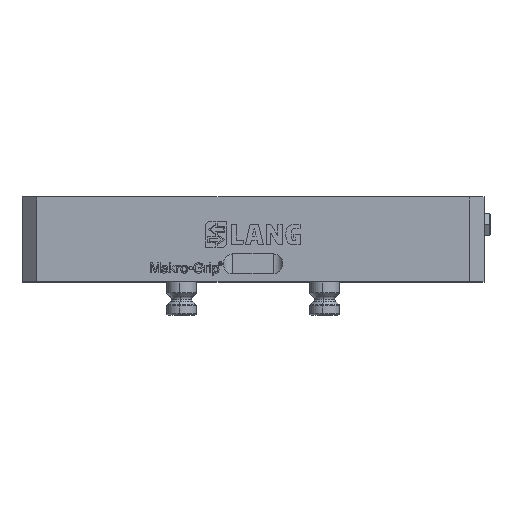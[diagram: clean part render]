
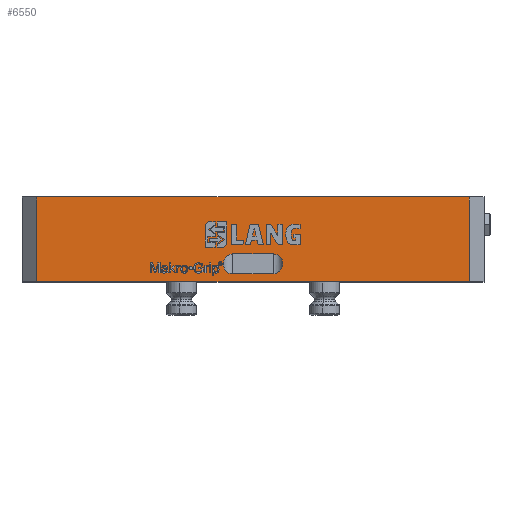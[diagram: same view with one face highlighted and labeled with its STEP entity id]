
A CAD part, top view. The second image highlights one B-rep face of the part: STEP entity #6550.
In plain terms, the highlighted planar face has unit normal (0, 0, 1).
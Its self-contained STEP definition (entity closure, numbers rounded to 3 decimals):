
#89 = VECTOR ( 'NONE', #3541, 1000. ) ;
#159 = CARTESIAN_POINT ( 'NONE',  ( -13.75, 18.743, 62.5 ) ) ;
#252 = DIRECTION ( 'NONE',  ( 0., -1., 0. ) ) ;
#398 = CARTESIAN_POINT ( 'NONE',  ( 155., 57., 62.5 ) ) ;
#1140 = ORIENTED_EDGE ( 'NONE', *, *, #44722, .F. ) ;
#1880 = VECTOR ( 'NONE', #7464, 1000. ) ;
#1913 = CARTESIAN_POINT ( 'NONE',  ( 13.75, 18.743, 62.5 ) ) ;
#2099 = CARTESIAN_POINT ( 'NONE',  ( 155., 0., 62.5 ) ) ;
#2195 = EDGE_LOOP ( 'NONE', ( #15017, #18294, #1140, #2374 ) ) ;
#2374 = ORIENTED_EDGE ( 'NONE', *, *, #34566, .T. ) ;
#3541 = DIRECTION ( 'NONE',  ( -1., 0., 0. ) ) ;
#3594 = CARTESIAN_POINT ( 'NONE',  ( -13.75, 18.743, 62.5 ) ) ;
#4196 = VERTEX_POINT ( 'NONE', #38570 ) ;
#4682 = CARTESIAN_POINT ( 'NONE',  ( 155., 0., 62.5 ) ) ;
#5156 = LINE ( 'NONE', #4682, #10123 ) ;
#6550 = ADVANCED_FACE ( 'NONE', ( #31103, #34161 ), #16384, .F. ) ;
#7326 = LINE ( 'NONE', #18054, #22744 ) ;
#7464 = DIRECTION ( 'NONE',  ( -1., 0., 0. ) ) ;
#10123 = VECTOR ( 'NONE', #33239, 1000. ) ;
#10622 = CARTESIAN_POINT ( 'NONE',  ( 145., 57., 62.5 ) ) ;
#10925 = VECTOR ( 'NONE', #39082, 1000. ) ;
#12719 = EDGE_CURVE ( 'NONE', #41375, #25609, #24658, .T. ) ;
#13348 = EDGE_CURVE ( 'NONE', #38183, #25609, #29340, .T. ) ;
#13977 = AXIS2_PLACEMENT_3D ( 'NONE', #2099, #23897, #24570 ) ;
#14697 = CARTESIAN_POINT ( 'NONE',  ( -26.25, 18.743, 62.5 ) ) ;
#15017 = ORIENTED_EDGE ( 'NONE', *, *, #37052, .T. ) ;
#15568 = VERTEX_POINT ( 'NONE', #38970 ) ;
#16384 = PLANE ( 'NONE',  #13977 ) ;
#18054 = CARTESIAN_POINT ( 'NONE',  ( -145., 0., 62.5 ) ) ;
#18294 = ORIENTED_EDGE ( 'NONE', *, *, #29335, .T. ) ;
#20451 = CARTESIAN_POINT ( 'NONE',  ( -145., 0., 62.5 ) ) ;
#22485 = CARTESIAN_POINT ( 'NONE',  ( -13.75, 5.441, 62.5 ) ) ;
#22744 = VECTOR ( 'NONE', #252, 1000. ) ;
#23897 = DIRECTION ( 'NONE',  ( 0., 0., -1. ) ) ;
#24098 = CARTESIAN_POINT ( 'NONE',  ( 145., 0., 62.5 ) ) ;
#24570 = DIRECTION ( 'NONE',  ( -1., 0., 0. ) ) ;
#24658 = LINE ( 'NONE', #39127, #89 ) ;
#24680 = ORIENTED_EDGE ( 'NONE', *, *, #43532, .F. ) ;
#25282 = CARTESIAN_POINT ( 'NONE',  ( -26.25, 5.441, 62.5 ) ) ;
#25609 = VERTEX_POINT ( 'NONE', #34482 ) ;
#27889 = CARTESIAN_POINT ( 'NONE',  ( 26.25, 5.441, 62.5 ) ) ;
#28779 = LINE ( 'NONE', #32265, #10925 ) ;
#29335 = EDGE_CURVE ( 'NONE', #4196, #36525, #7326, .T. ) ;
#29340 =( BOUNDED_CURVE ( )  B_SPLINE_CURVE ( 3, ( #159, #14697, #25282, #22485 ),
 .UNSPECIFIED., .F., .F. ) 
 B_SPLINE_CURVE_WITH_KNOTS ( ( 4, 4 ),
 ( 3.142, 6.283 ),
 .UNSPECIFIED. ) 
 CURVE ( )  GEOMETRIC_REPRESENTATION_ITEM ( )  RATIONAL_B_SPLINE_CURVE ( ( 1., 0.333, 0.333, 1. ) ) 
 REPRESENTATION_ITEM ( '' )  );
#30716 = CARTESIAN_POINT ( 'NONE',  ( 26.25, 18.743, 62.5 ) ) ;
#30898 = ORIENTED_EDGE ( 'NONE', *, *, #31222, .T. ) ;
#30914 = CARTESIAN_POINT ( 'NONE',  ( 145., 57., 62.5 ) ) ;
#31103 = FACE_BOUND ( 'NONE', #37904, .T. ) ;
#31222 = EDGE_CURVE ( 'NONE', #38183, #15568, #28779, .T. ) ;
#31378 = DIRECTION ( 'NONE',  ( 0., 1., 0. ) ) ;
#31404 = VERTEX_POINT ( 'NONE', #24098 ) ;
#32039 = LINE ( 'NONE', #398, #1880 ) ;
#32265 = CARTESIAN_POINT ( 'NONE',  ( 155., 18.743, 62.5 ) ) ;
#32469 = VERTEX_POINT ( 'NONE', #10622 ) ;
#33239 = DIRECTION ( 'NONE',  ( -1., 0., 0. ) ) ;
#34161 = FACE_OUTER_BOUND ( 'NONE', #2195, .T. ) ;
#34482 = CARTESIAN_POINT ( 'NONE',  ( -13.75, 5.441, 62.5 ) ) ;
#34566 = EDGE_CURVE ( 'NONE', #31404, #32469, #42137, .T. ) ;
#34684 = CARTESIAN_POINT ( 'NONE',  ( 13.75, 5.441, 62.5 ) ) ;
#35093 = ORIENTED_EDGE ( 'NONE', *, *, #12719, .T. ) ;
#36031 = VECTOR ( 'NONE', #31378, 1000. ) ;
#36525 = VERTEX_POINT ( 'NONE', #20451 ) ;
#37052 = EDGE_CURVE ( 'NONE', #32469, #4196, #32039, .T. ) ;
#37904 = EDGE_LOOP ( 'NONE', ( #39916, #30898, #24680, #35093 ) ) ;
#38183 = VERTEX_POINT ( 'NONE', #3594 ) ;
#38570 = CARTESIAN_POINT ( 'NONE',  ( -145., 57., 62.5 ) ) ;
#38922 =( BOUNDED_CURVE ( )  B_SPLINE_CURVE ( 3, ( #34684, #27889, #30716, #1913 ),
 .UNSPECIFIED., .F., .F. ) 
 B_SPLINE_CURVE_WITH_KNOTS ( ( 4, 4 ),
 ( 0., 3.142 ),
 .UNSPECIFIED. ) 
 CURVE ( )  GEOMETRIC_REPRESENTATION_ITEM ( )  RATIONAL_B_SPLINE_CURVE ( ( 1., 0.333, 0.333, 1. ) ) 
 REPRESENTATION_ITEM ( '' )  );
#38970 = CARTESIAN_POINT ( 'NONE',  ( 13.75, 18.743, 62.5 ) ) ;
#39082 = DIRECTION ( 'NONE',  ( 1., 0., 0. ) ) ;
#39127 = CARTESIAN_POINT ( 'NONE',  ( 20., 5.441, 62.5 ) ) ;
#39916 = ORIENTED_EDGE ( 'NONE', *, *, #13348, .F. ) ;
#41375 = VERTEX_POINT ( 'NONE', #42168 ) ;
#42137 = LINE ( 'NONE', #30914, #36031 ) ;
#42168 = CARTESIAN_POINT ( 'NONE',  ( 13.75, 5.441, 62.5 ) ) ;
#43532 = EDGE_CURVE ( 'NONE', #41375, #15568, #38922, .T. ) ;
#44722 = EDGE_CURVE ( 'NONE', #31404, #36525, #5156, .T. ) ;
